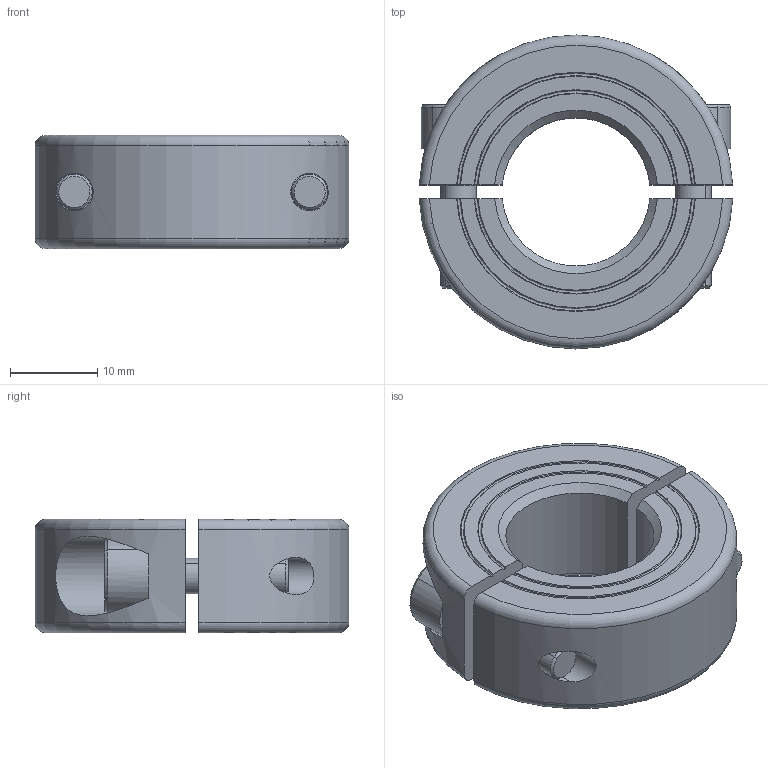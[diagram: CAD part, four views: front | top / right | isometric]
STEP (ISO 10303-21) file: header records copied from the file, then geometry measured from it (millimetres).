
FILE_DESCRIPTION((''),'2;1');
FILE_NAME('MSP-17-X','2016-09-09T',('SYSTEM'),(''),'PRO/ENGINEER BY PARAMETRIC TECHNOLOGY CORPORATION, 2015110','PRO/ENGINEER BY PARAMETRIC TECHNOLOGY CORPORATION, 2015110','');
FILE_SCHEMA(('AUTOMOTIVE_DESIGN { 1 0 10303 214 1 1 1 1 }'));
Length unit declared in the file: inch
Products named in the file (1): MSP-17-X
Bounding box: 35.96 x 36 x 13 mm (x, y, z)
Volume: 9352.2 mm3; surface area: 5320 mm2
Topology: 2 solids, 2 shells, 90 faces, 222 edges, 144 vertices
Faces by surface type: plane 36, cylinder 26, cone 20, torus 8
Entity records: 3609 total; most frequent: CARTESIAN_POINT 799, ORIENTED_EDGE 444, DIRECTION 430, EDGE_CURVE 222, AXIS2_PLACEMENT_3D 168, VERTEX_POINT 144, EDGE_LOOP 102, VECTOR 94
